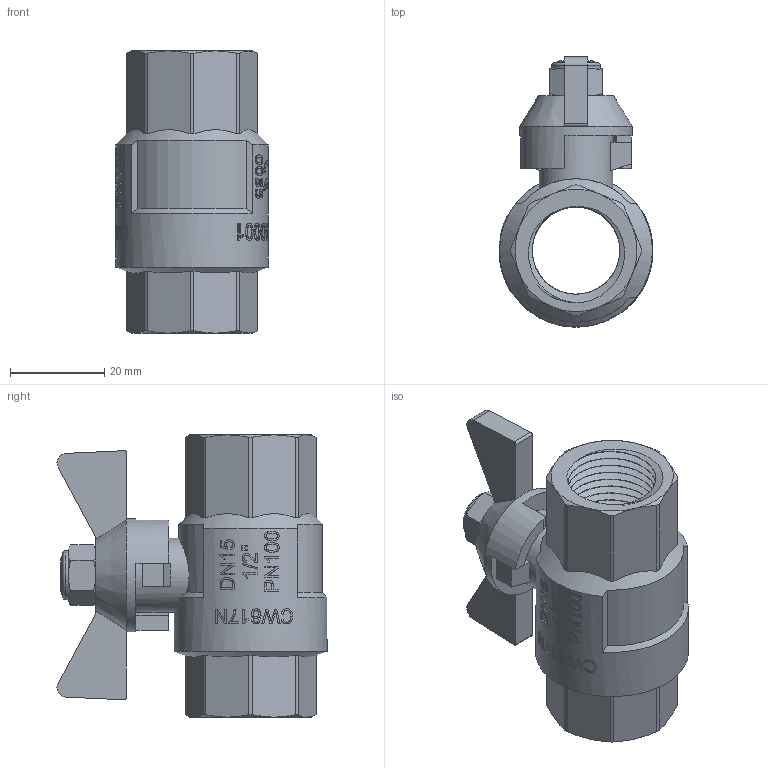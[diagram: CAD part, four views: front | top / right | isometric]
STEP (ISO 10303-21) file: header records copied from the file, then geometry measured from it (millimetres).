
FILE_DESCRIPTION(/* description */ (''),/* implementation_level */ '2;1');
FILE_NAME(/* name */ 'F:\Артём\00000\Работа удаленка\0\B\VT.317.N.04.stp',/* time_stamp */ '2021-02-03T16:02:33+03:00',/* author */ ('almis'),/* organization */ (''),/* preprocessor_version */ 'ST-DEVELOPER v18',/* originating_system */ 'Autodesk Inventor 2020',/* authorisation */ '');
FILE_SCHEMA (('AUTOMOTIVE_DESIGN { 1 0 10303 214 3 1 1 }'));
Length unit declared in the file: millimetre
Products named in the file (1): VT.314_ВВ_1%2
Bounding box: 32.7 x 57.42 x 60 mm (x, y, z)
Volume: 31733.3 mm3; surface area: 16174.5 mm2
Topology: 1 solids, 1 shells, 587 faces, 1567 edges, 1032 vertices
Faces by surface type: bspline 229, plane 210, cylinder 121, cone 24, torus 3
Full cylindrical faces by diameter (mm): 8 x1, 10.392 x1, 15.676 x1, 18.6 x15, 22.2 x16, 24 x1, 32.5 x1
Entity records: 28385 total; most frequent: CARTESIAN_POINT 15043, ORIENTED_EDGE 3134, DIRECTION 1944, EDGE_CURVE 1567, VERTEX_POINT 1032, LINE 696, VECTOR 696, EDGE_LOOP 643
